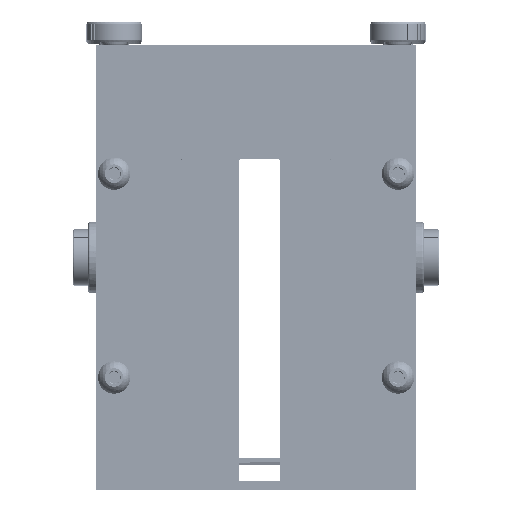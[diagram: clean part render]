
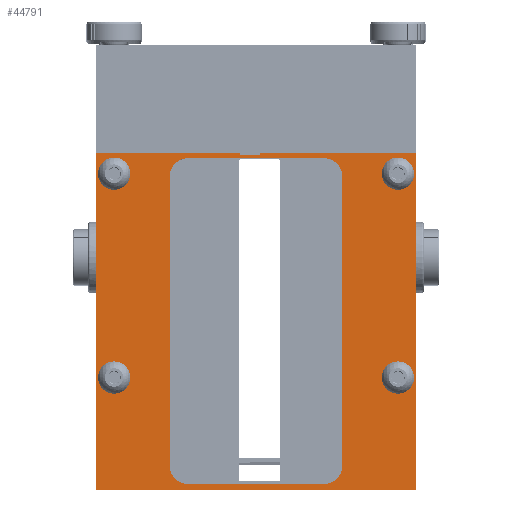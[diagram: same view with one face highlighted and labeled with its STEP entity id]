
A CAD part, top view. The second image highlights one B-rep face of the part: STEP entity #44791.
In plain terms, the highlighted planar face has unit normal (0, 0, 1).
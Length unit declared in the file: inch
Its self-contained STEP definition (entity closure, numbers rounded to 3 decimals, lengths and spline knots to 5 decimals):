
#43500=DIRECTION('',(0.,-1.,0.));
#43501=VECTOR('',#43500,0.01969);
#43502=CARTESIAN_POINT('',(-0.21579,0.,0.));
#43503=LINE('662',#43502,#43501);
#43504=DIRECTION('',(1.,0.,0.));
#43505=VECTOR('',#43504,0.27559);
#43506=CARTESIAN_POINT('',(-0.21579,-0.01969,0.));
#43507=LINE('663',#43506,#43505);
#43508=DIRECTION('',(0.,-1.,0.));
#43509=VECTOR('',#43508,0.01969);
#43510=CARTESIAN_POINT('',(0.0598,0.,0.));
#43511=LINE('664',#43510,#43509);
#43512=DIRECTION('',(-1.,0.,0.));
#43513=VECTOR('',#43512,2.1085);
#43514=CARTESIAN_POINT('',(2.16831,0.,0.));
#43515=LINE('668',#43514,#43513);
#43516=DIRECTION('',(0.,1.,0.));
#43517=VECTOR('',#43516,4.55094);
#43518=CARTESIAN_POINT('',(2.16831,-4.55094,0.));
#43519=LINE('66',#43518,#43517);
#43520=DIRECTION('',(1.,0.,0.));
#43521=VECTOR('',#43520,4.33661);
#43522=CARTESIAN_POINT('',(-2.16831,-4.55094,0.));
#43523=LINE('65',#43522,#43521);
#43524=DIRECTION('',(0.,-1.,0.));
#43525=VECTOR('',#43524,4.55094);
#43526=CARTESIAN_POINT('',(-2.16831,0.,0.));
#43527=LINE('64',#43526,#43525);
#43528=DIRECTION('',(-1.,0.,0.));
#43529=VECTOR('',#43528,1.95252);
#43530=CARTESIAN_POINT('',(-0.21579,0.,0.));
#43531=LINE('669',#43530,#43529);
#43532=CARTESIAN_POINT('',(-1.91831,-0.27587,0.));
#43533=DIRECTION('',(0.,0.,1.));
#43534=DIRECTION('',(-1.,0.,0.));
#43535=AXIS2_PLACEMENT_3D('',#43532,#43533,#43534);
#43537=CARTESIAN_POINT('',(-1.91831,-0.27587,0.));
#43538=DIRECTION('',(0.,0.,1.));
#43539=DIRECTION('',(1.,0.,0.));
#43540=AXIS2_PLACEMENT_3D('',#43537,#43538,#43539);
#43542=CARTESIAN_POINT('',(1.91831,-0.27587,0.));
#43543=DIRECTION('',(0.,0.,1.));
#43544=DIRECTION('',(-1.,0.,0.));
#43545=AXIS2_PLACEMENT_3D('',#43542,#43543,#43544);
#43547=CARTESIAN_POINT('',(1.91831,-0.27587,0.));
#43548=DIRECTION('',(0.,0.,1.));
#43549=DIRECTION('',(1.,0.,0.));
#43550=AXIS2_PLACEMENT_3D('',#43547,#43548,#43549);
#43552=CARTESIAN_POINT('',(-1.91831,-3.03178,0.));
#43553=DIRECTION('',(0.,0.,1.));
#43554=DIRECTION('',(-1.,0.,0.));
#43555=AXIS2_PLACEMENT_3D('',#43552,#43553,#43554);
#43557=CARTESIAN_POINT('',(-1.91831,-3.03178,0.));
#43558=DIRECTION('',(0.,0.,1.));
#43559=DIRECTION('',(1.,0.,0.));
#43560=AXIS2_PLACEMENT_3D('',#43557,#43558,#43559);
#43562=CARTESIAN_POINT('',(1.91831,-3.03178,0.));
#43563=DIRECTION('',(0.,0.,1.));
#43564=DIRECTION('',(-1.,0.,0.));
#43565=AXIS2_PLACEMENT_3D('',#43562,#43563,#43564);
#43567=CARTESIAN_POINT('',(1.91831,-3.03178,0.));
#43568=DIRECTION('',(0.,0.,1.));
#43569=DIRECTION('',(1.,0.,0.));
#43570=AXIS2_PLACEMENT_3D('',#43567,#43568,#43569);
#43572=DIRECTION('',(0.,1.,0.));
#43573=VECTOR('',#43572,3.90538);
#43574=CARTESIAN_POINT('',(1.16831,-4.22231,0.));
#43575=LINE('1072',#43574,#43573);
#43576=DIRECTION('',(-1.,0.,0.));
#43577=VECTOR('',#43576,1.83661);
#43578=CARTESIAN_POINT('',(0.91831,-0.06693,0.));
#43579=LINE('1073',#43578,#43577);
#43580=DIRECTION('',(0.,-1.,0.));
#43581=VECTOR('',#43580,3.90538);
#43582=CARTESIAN_POINT('',(-1.16831,-0.31693,0.));
#43583=LINE('1070',#43582,#43581);
#43584=DIRECTION('',(1.,0.,0.));
#43585=VECTOR('',#43584,1.83661);
#43586=CARTESIAN_POINT('',(-0.91831,-4.47231,0.));
#43587=LINE('1071',#43586,#43585);
#44067=CARTESIAN_POINT('',(0.91831,-4.22231,0.));
#44068=DIRECTION('',(0.,0.,-1.));
#44069=DIRECTION('',(1.,0.,0.));
#44070=AXIS2_PLACEMENT_3D('',#44067,#44068,#44069);
#44080=CARTESIAN_POINT('',(0.91831,-0.31693,0.));
#44081=DIRECTION('',(0.,0.,-1.));
#44082=DIRECTION('',(0.,1.,0.));
#44083=AXIS2_PLACEMENT_3D('',#44080,#44081,#44082);
#44093=CARTESIAN_POINT('',(-0.91831,-0.31693,0.));
#44094=DIRECTION('',(0.,0.,-1.));
#44095=DIRECTION('',(-1.,0.,0.));
#44096=AXIS2_PLACEMENT_3D('',#44093,#44094,#44095);
#44106=CARTESIAN_POINT('',(-0.91831,-4.22231,0.));
#44107=DIRECTION('',(0.,0.,-1.));
#44108=DIRECTION('',(0.,-1.,0.));
#44109=AXIS2_PLACEMENT_3D('',#44106,#44107,#44108);
#44434=CARTESIAN_POINT('',(-2.16831,0.,0.));
#44435=CARTESIAN_POINT('',(-2.16831,-4.55094,0.));
#44436=VERTEX_POINT('',#44434);
#44437=VERTEX_POINT('',#44435);
#44438=CARTESIAN_POINT('',(2.16831,-4.55094,0.));
#44439=VERTEX_POINT('',#44438);
#44440=CARTESIAN_POINT('',(2.16831,0.,0.));
#44441=VERTEX_POINT('',#44440);
#44446=CARTESIAN_POINT('',(-2.04681,-0.27587,0.));
#44447=CARTESIAN_POINT('',(-1.78981,-0.27587,0.));
#44448=VERTEX_POINT('',#44446);
#44449=VERTEX_POINT('',#44447);
#44454=CARTESIAN_POINT('',(1.78981,-0.27587,0.));
#44455=CARTESIAN_POINT('',(2.04681,-0.27587,0.));
#44456=VERTEX_POINT('',#44454);
#44457=VERTEX_POINT('',#44455);
#44462=CARTESIAN_POINT('',(-2.04681,-3.03178,0.));
#44463=CARTESIAN_POINT('',(-1.78981,-3.03178,0.));
#44464=VERTEX_POINT('',#44462);
#44465=VERTEX_POINT('',#44463);
#44470=CARTESIAN_POINT('',(1.78981,-3.03178,0.));
#44471=CARTESIAN_POINT('',(2.04681,-3.03178,0.));
#44472=VERTEX_POINT('',#44470);
#44473=VERTEX_POINT('',#44471);
#44498=CARTESIAN_POINT('',(-0.21579,0.,0.));
#44499=CARTESIAN_POINT('',(-0.21579,-0.01969,0.));
#44500=VERTEX_POINT('',#44498);
#44501=VERTEX_POINT('',#44499);
#44502=CARTESIAN_POINT('',(0.0598,-0.01969,0.));
#44503=VERTEX_POINT('',#44502);
#44504=CARTESIAN_POINT('',(0.0598,0.,0.));
#44505=VERTEX_POINT('',#44504);
#44562=CARTESIAN_POINT('',(1.16831,-4.22231,0.));
#44563=VERTEX_POINT('',#44562);
#44564=CARTESIAN_POINT('',(0.91831,-4.47231,0.));
#44565=VERTEX_POINT('',#44564);
#44570=CARTESIAN_POINT('',(0.91831,-0.06693,0.));
#44571=VERTEX_POINT('',#44570);
#44572=CARTESIAN_POINT('',(1.16831,-0.31693,0.));
#44573=VERTEX_POINT('',#44572);
#44578=CARTESIAN_POINT('',(-1.16831,-0.31693,0.));
#44579=VERTEX_POINT('',#44578);
#44580=CARTESIAN_POINT('',(-0.91831,-0.06693,0.));
#44581=VERTEX_POINT('',#44580);
#44586=CARTESIAN_POINT('',(-0.91831,-4.47231,0.));
#44587=VERTEX_POINT('',#44586);
#44588=CARTESIAN_POINT('',(-1.16831,-4.22231,0.));
#44589=VERTEX_POINT('',#44588);
#44726=CARTESIAN_POINT('',(0.,0.,0.));
#44727=DIRECTION('',(0.,0.,1.));
#44728=DIRECTION('',(1.,0.,0.));
#44729=AXIS2_PLACEMENT_3D('',#44726,#44727,#44728);
#44730=PLANE('63',#44729);
#44732=ORIENTED_EDGE('662',*,*,#44731,.T.);
#44734=ORIENTED_EDGE('663',*,*,#44733,.T.);
#44736=ORIENTED_EDGE('664',*,*,#44735,.F.);
#44738=ORIENTED_EDGE('668',*,*,#44737,.F.);
#44740=ORIENTED_EDGE('66',*,*,#44739,.F.);
#44742=ORIENTED_EDGE('65',*,*,#44741,.F.);
#44744=ORIENTED_EDGE('64',*,*,#44743,.F.);
#44746=ORIENTED_EDGE('669',*,*,#44745,.F.);
#44747=EDGE_LOOP('63',(#44732,#44734,#44736,#44738,#44740,#44742,#44744,
#44746));
#44748=FACE_OUTER_BOUND('63',#44747,.F.);
#44750=ORIENTED_EDGE('224',*,*,#44749,.T.);
#44752=ORIENTED_EDGE('225',*,*,#44751,.T.);
#44753=EDGE_LOOP('63',(#44750,#44752));
#44754=FACE_BOUND('63',#44753,.F.);
#44756=ORIENTED_EDGE('277',*,*,#44755,.T.);
#44758=ORIENTED_EDGE('278',*,*,#44757,.T.);
#44759=EDGE_LOOP('63',(#44756,#44758));
#44760=FACE_BOUND('63',#44759,.F.);
#44762=ORIENTED_EDGE('333',*,*,#44761,.T.);
#44764=ORIENTED_EDGE('334',*,*,#44763,.T.);
#44765=EDGE_LOOP('63',(#44762,#44764));
#44766=FACE_BOUND('63',#44765,.F.);
#44768=ORIENTED_EDGE('381',*,*,#44767,.T.);
#44770=ORIENTED_EDGE('382',*,*,#44769,.T.);
#44771=EDGE_LOOP('63',(#44768,#44770));
#44772=FACE_BOUND('63',#44771,.F.);
#44774=ORIENTED_EDGE('1072',*,*,#44773,.T.);
#44776=ORIENTED_EDGE('1075',*,*,#44775,.F.);
#44778=ORIENTED_EDGE('1073',*,*,#44777,.T.);
#44780=ORIENTED_EDGE('1076',*,*,#44779,.F.);
#44782=ORIENTED_EDGE('1070',*,*,#44781,.T.);
#44784=ORIENTED_EDGE('1077',*,*,#44783,.F.);
#44786=ORIENTED_EDGE('1071',*,*,#44785,.T.);
#44788=ORIENTED_EDGE('1074',*,*,#44787,.F.);
#44789=EDGE_LOOP('63',(#44774,#44776,#44778,#44780,#44782,#44784,#44786,
#44788));
#44790=FACE_BOUND('63',#44789,.F.);
#44791=ADVANCED_FACE('63',(#44748,#44754,#44760,#44766,#44772,#44790),#44730,
.T.);
#43536=CIRCLE('224',#43535,0.1285);
#43541=CIRCLE('225',#43540,0.1285);
#43546=CIRCLE('277',#43545,0.1285);
#43551=CIRCLE('278',#43550,0.1285);
#43556=CIRCLE('333',#43555,0.1285);
#43561=CIRCLE('334',#43560,0.1285);
#43566=CIRCLE('381',#43565,0.1285);
#43571=CIRCLE('382',#43570,0.1285);
#44071=CIRCLE('1074',#44070,0.25);
#44084=CIRCLE('1075',#44083,0.25);
#44097=CIRCLE('1076',#44096,0.25);
#44110=CIRCLE('1077',#44109,0.25);
#44731=EDGE_CURVE('662',#44500,#44501,#43503,.T.);
#44733=EDGE_CURVE('663',#44501,#44503,#43507,.T.);
#44735=EDGE_CURVE('664',#44505,#44503,#43511,.T.);
#44737=EDGE_CURVE('668',#44441,#44505,#43515,.T.);
#44739=EDGE_CURVE('66',#44439,#44441,#43519,.T.);
#44741=EDGE_CURVE('65',#44437,#44439,#43523,.T.);
#44743=EDGE_CURVE('64',#44436,#44437,#43527,.T.);
#44745=EDGE_CURVE('669',#44500,#44436,#43531,.T.);
#44749=EDGE_CURVE('224',#44448,#44449,#43536,.T.);
#44751=EDGE_CURVE('225',#44449,#44448,#43541,.T.);
#44755=EDGE_CURVE('277',#44456,#44457,#43546,.T.);
#44757=EDGE_CURVE('278',#44457,#44456,#43551,.T.);
#44761=EDGE_CURVE('333',#44464,#44465,#43556,.T.);
#44763=EDGE_CURVE('334',#44465,#44464,#43561,.T.);
#44767=EDGE_CURVE('381',#44472,#44473,#43566,.T.);
#44769=EDGE_CURVE('382',#44473,#44472,#43571,.T.);
#44773=EDGE_CURVE('1072',#44563,#44573,#43575,.T.);
#44775=EDGE_CURVE('1075',#44571,#44573,#44084,.T.);
#44777=EDGE_CURVE('1073',#44571,#44581,#43579,.T.);
#44779=EDGE_CURVE('1076',#44579,#44581,#44097,.T.);
#44781=EDGE_CURVE('1070',#44579,#44589,#43583,.T.);
#44783=EDGE_CURVE('1077',#44587,#44589,#44110,.T.);
#44785=EDGE_CURVE('1071',#44587,#44565,#43587,.T.);
#44787=EDGE_CURVE('1074',#44563,#44565,#44071,.T.);
